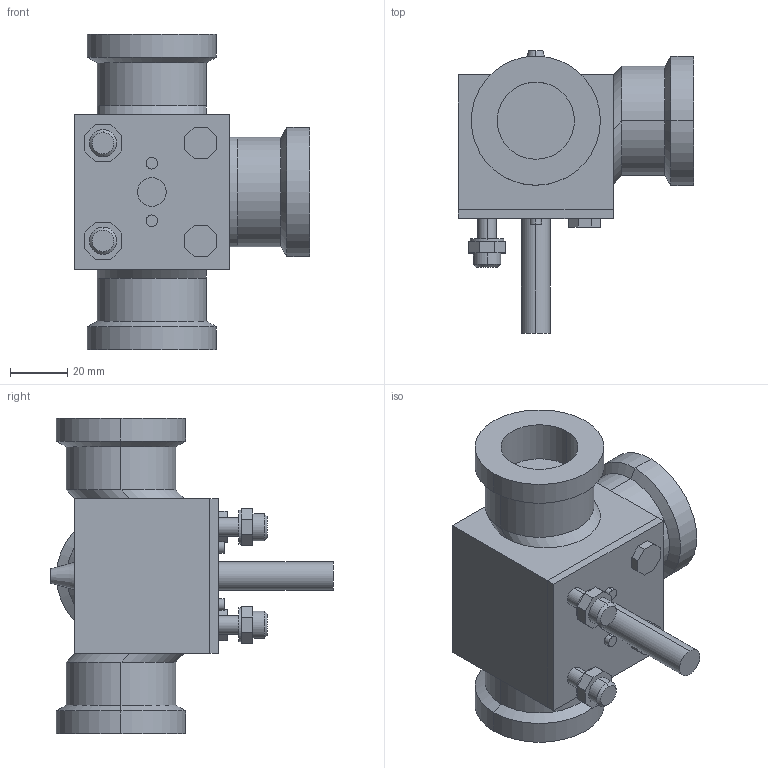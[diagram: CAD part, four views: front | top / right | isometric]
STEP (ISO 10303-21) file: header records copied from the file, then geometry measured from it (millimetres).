
FILE_DESCRIPTION((''),'2;1');
FILE_NAME('KL000030.dwg.stp','2006-10-04T11:30:34',(''),(''),'Mechanical Desktop 2006','Mechanical Desktop 2006',', , ');
FILE_SCHEMA(('AUTOMOTIVE_DESIGN { 1 2 10303 214 0 1 1 1 }'));
Length unit declared in the file: millimetre
Products named in the file (1): Product
Bounding box: 82 x 98.5 x 110 mm (x, y, z)
Volume: 235614.4 mm3; surface area: 50786.7 mm2
Topology: 19 solids, 19 shells, 135 faces, 260 edges, 166 vertices
Faces by surface type: plane 53, bspline 50, cylinder 22, cone 10
Entity records: 3738 total; most frequent: CARTESIAN_POINT 1020, ORIENTED_EDGE 520, DIRECTION 518, EDGE_CURVE 260, VECTOR 174, LINE 174, AXIS2_PLACEMENT_3D 172, VERTEX_POINT 166
